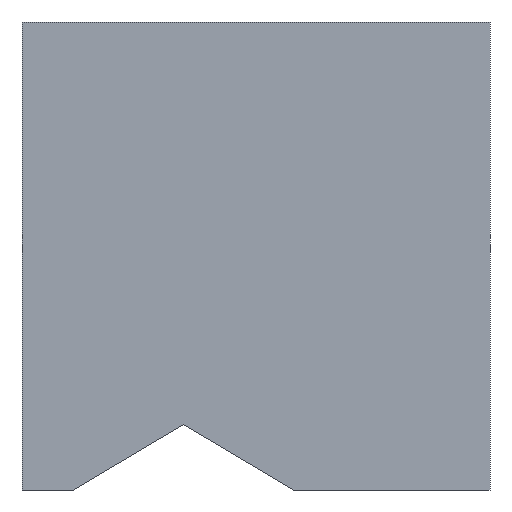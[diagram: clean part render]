
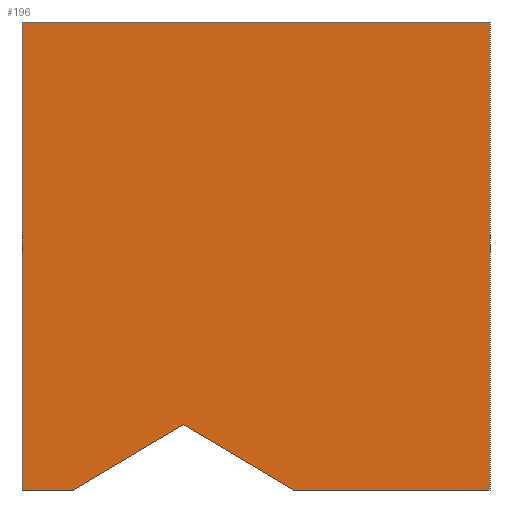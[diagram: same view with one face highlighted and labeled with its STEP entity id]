
A CAD part, front view. The second image highlights one B-rep face of the part: STEP entity #196.
In plain terms, the highlighted planar face has unit normal (0, -1, 0).
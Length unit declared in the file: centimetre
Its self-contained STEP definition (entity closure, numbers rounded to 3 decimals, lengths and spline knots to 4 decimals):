
#6 = ORIENTED_EDGE ( 'NONE', *, *, #148, .T. ) ;
#9 = AXIS2_PLACEMENT_3D ( 'NONE', #141, #176, #34 ) ;
#20 = CARTESIAN_POINT ( 'NONE',  ( 581.1323, 0., 0. ) ) ;
#21 = CARTESIAN_POINT ( 'NONE',  ( 1000., 0., 1000. ) ) ;
#25 = ORIENTED_EDGE ( 'NONE', *, *, #426, .F. ) ;
#32 = EDGE_CURVE ( 'NONE', #169, #433, #155, .T. ) ;
#34 = DIRECTION ( 'NONE',  ( 0., 0., 1. ) ) ;
#44 = CARTESIAN_POINT ( 'NONE',  ( 0., 0., 1000. ) ) ;
#49 = EDGE_CURVE ( 'NONE', #111, #342, #280, .T. ) ;
#52 = LINE ( 'NONE', #158, #338 ) ;
#101 = VECTOR ( 'NONE', #290, 100. ) ;
#105 = DIRECTION ( 'NONE',  ( 0., 0., -1. ) ) ;
#111 = VERTEX_POINT ( 'NONE', #322 ) ;
#120 = VECTOR ( 'NONE', #105, 100. ) ;
#127 = VERTEX_POINT ( 'NONE', #417 ) ;
#133 = EDGE_LOOP ( 'NONE', ( #425, #6, #202, #177, #25, #162, #304 ) ) ;
#139 = VERTEX_POINT ( 'NONE', #44 ) ;
#141 = CARTESIAN_POINT ( 'NONE',  ( 0., 0., 1000. ) ) ;
#147 = CARTESIAN_POINT ( 'NONE',  ( 0., 0., 0. ) ) ;
#148 = EDGE_CURVE ( 'NONE', #127, #333, #300, .T. ) ;
#155 = LINE ( 'NONE', #159, #101 ) ;
#158 = CARTESIAN_POINT ( 'NONE',  ( 0., 0., 0. ) ) ;
#159 = CARTESIAN_POINT ( 'NONE',  ( 0., 0., 0. ) ) ;
#160 = CARTESIAN_POINT ( 'NONE',  ( 110.5825, 0., 0. ) ) ;
#162 = ORIENTED_EDGE ( 'NONE', *, *, #263, .T. ) ;
#169 = VERTEX_POINT ( 'NONE', #147 ) ;
#176 = DIRECTION ( 'NONE',  ( 0., 1., 0. ) ) ;
#177 = ORIENTED_EDGE ( 'NONE', *, *, #49, .F. ) ;
#182 = DIRECTION ( 'NONE',  ( 1., 0., 0. ) ) ;
#193 = DIRECTION ( 'NONE',  ( 1., 0., 0. ) ) ;
#196 = ADVANCED_FACE ( 'NONE', ( #206 ), #214, .F. ) ;
#202 = ORIENTED_EDGE ( 'NONE', *, *, #422, .T. ) ;
#206 = FACE_OUTER_BOUND ( 'NONE', #133, .T. ) ;
#212 = LINE ( 'NONE', #248, #120 ) ;
#214 = PLANE ( 'NONE',  #9 ) ;
#217 = DIRECTION ( 'NONE',  ( 0.859, 0., -0.511 ) ) ;
#218 = DIRECTION ( 'NONE',  ( 0., 0., -1. ) ) ;
#234 = VECTOR ( 'NONE', #218, 100. ) ;
#248 = CARTESIAN_POINT ( 'NONE',  ( 0., 0., 1000. ) ) ;
#257 = CARTESIAN_POINT ( 'NONE',  ( 1000., 0., 0. ) ) ;
#263 = EDGE_CURVE ( 'NONE', #139, #169, #212, .T. ) ;
#280 = LINE ( 'NONE', #21, #234 ) ;
#289 = DIRECTION ( 'NONE',  ( 0.859, 0., 0.511 ) ) ;
#290 = DIRECTION ( 'NONE',  ( 1., 0., 0. ) ) ;
#300 = LINE ( 'NONE', #307, #349 ) ;
#304 = ORIENTED_EDGE ( 'NONE', *, *, #32, .T. ) ;
#307 = CARTESIAN_POINT ( 'NONE',  ( 345.8574, 0., 139.9335 ) ) ;
#322 = CARTESIAN_POINT ( 'NONE',  ( 1000., 0., 1000. ) ) ;
#332 = VECTOR ( 'NONE', #289, 100. ) ;
#333 = VERTEX_POINT ( 'NONE', #20 ) ;
#338 = VECTOR ( 'NONE', #182, 100. ) ;
#339 = EDGE_CURVE ( 'NONE', #433, #127, #423, .T. ) ;
#342 = VERTEX_POINT ( 'NONE', #257 ) ;
#349 = VECTOR ( 'NONE', #217, 100. ) ;
#385 = CARTESIAN_POINT ( 'NONE',  ( 110.5825, 0., 0. ) ) ;
#409 = VECTOR ( 'NONE', #193, 100. ) ;
#416 = CARTESIAN_POINT ( 'NONE',  ( 0., 0., 1000. ) ) ;
#417 = CARTESIAN_POINT ( 'NONE',  ( 345.8574, 0., 139.9335 ) ) ;
#422 = EDGE_CURVE ( 'NONE', #333, #342, #52, .T. ) ;
#423 = LINE ( 'NONE', #385, #332 ) ;
#424 = LINE ( 'NONE', #416, #409 ) ;
#425 = ORIENTED_EDGE ( 'NONE', *, *, #339, .T. ) ;
#426 = EDGE_CURVE ( 'NONE', #139, #111, #424, .T. ) ;
#433 = VERTEX_POINT ( 'NONE', #160 ) ;
